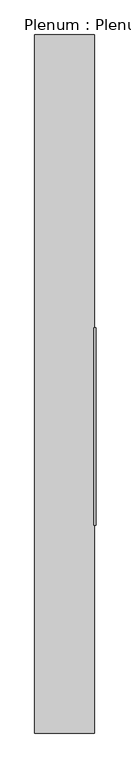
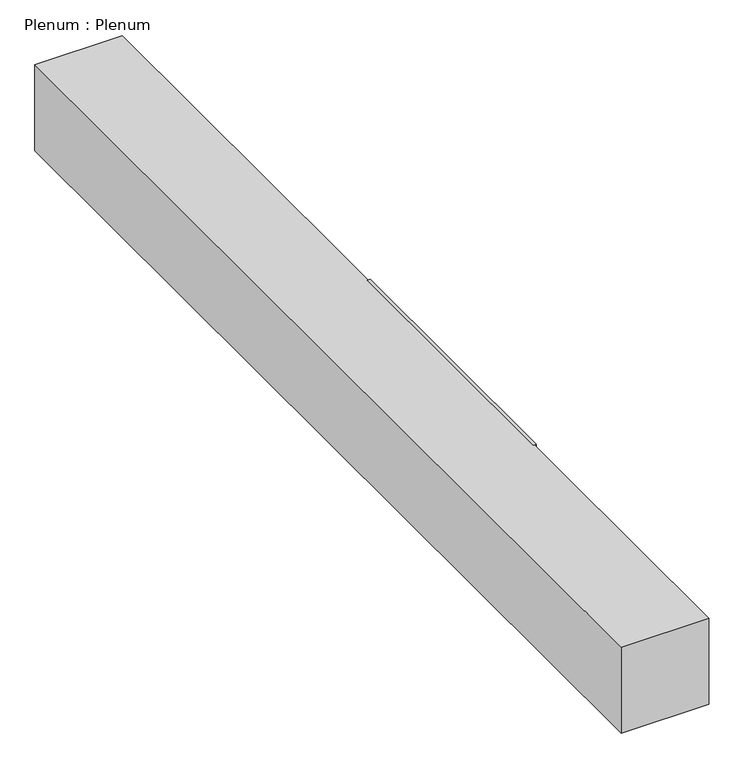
"""IFC4 building model written with IfcOpenShell, lengths in millimetres: duct fitting geometry, Plenum : Plenum."""

from ifc_helpers import new_model, si_unit, frame, origin, place, context, project, spatial, polyline, outline, extrude, source, transform, mapped, element, save


def plenum_plenum_7b1017f3(model_context):
    return source(origin(), model_context, "Body", "SweptSolid", [
        extrude(outline(polyline([(-1908.7652621, 14526.180409), (-1908.7652621, 12595.780409), (-1928.6937131, 12595.780409), (-1928.6937131, 14526.180409), (-1908.7652621, 14526.180409)])), frame((0.0, 0.0, 3835.8826), z_axis=(0.0, 0.0, 1.0), x_axis=(1.0, 0.0, 0.0)), (0.0, 0.0, 1.0), 609.6762),
        extrude(outline(polyline([(-1923.1326176, 17381.1439333), (-1923.1326176, 10570.1744337), (-2509.2493706, 10570.1744337), (-2509.2493706, 17381.1439333), (-1923.1326176, 17381.1439333)])), frame((0.0, 0.0, 3835.8826), z_axis=(0.0, 0.0, 1.0), x_axis=(1.0, 0.0, 0.0)), (0.0, 0.0, 1.0), 609.6762),
    ])


if __name__ == "__main__":
    model = new_model("IFC4")
    model_context = context("Model", 3, world=origin())
    ifc_project = project(units=[si_unit("LENGTHUNIT", "METRE", prefix="MILLI")], contexts=[model_context])
    site = spatial("IfcSite", under=ifc_project)
    building = spatial("IfcBuilding", under=site)
    placement = place(None, origin())
    plenum_plenum_shape = plenum_plenum_7b1017f3(model_context)
    element("IfcDuctFitting", 1, ObjectType="Plenum : Plenum", at=placement, inside=building, context=model_context, shape_type="MappedRepresentation", body=[
        mapped(plenum_plenum_shape, transform((0.0, 0.0, 0.0), x_axis=(1.0, 0.0, 0.0), y_axis=(0.0, 1.0, 0.0), z_axis=(0.0, 0.0, 1.0))),
    ])
    save(model, "model.ifc")
